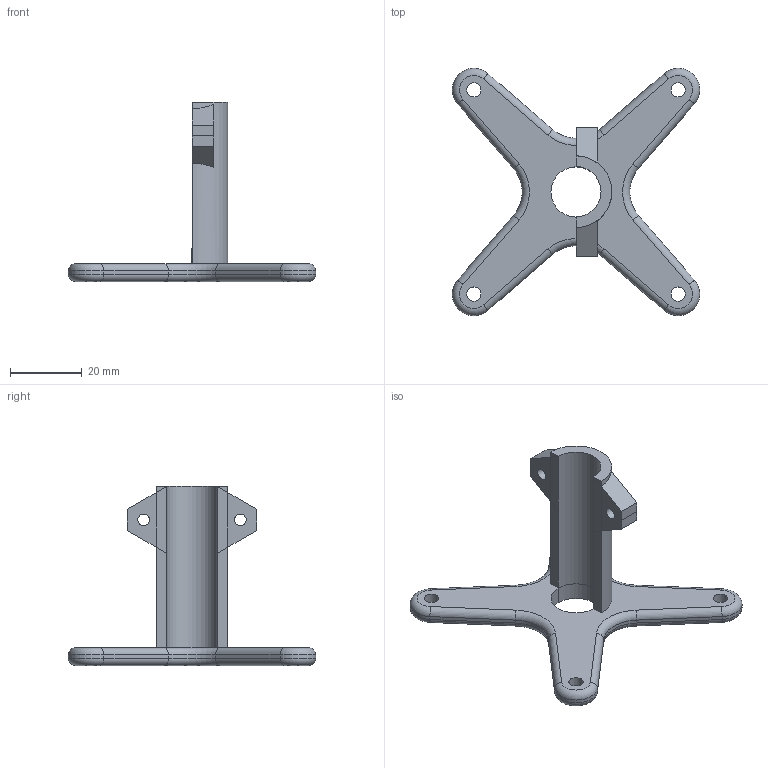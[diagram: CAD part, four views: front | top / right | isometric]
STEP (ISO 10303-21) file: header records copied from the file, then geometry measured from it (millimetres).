
FILE_DESCRIPTION(('FreeCAD Model'),'2;1');
FILE_NAME('Open CASCADE Shape Model','2022-05-26T11:40:16',('Author'),( ''),'Open CASCADE STEP processor 7.5','FreeCAD','Unknown');
FILE_SCHEMA(('AUTOMOTIVE_DESIGN { 1 0 10303 214 1 1 1 1 }'));
Length unit declared in the file: millimetre
Products named in the file (1): Pen
Bounding box: 69.01 x 69.01 x 50 mm (x, y, z)
Volume: 14966.5 mm3; surface area: 9228.1 mm2
Topology: 1 solids, 1 shells, 85 faces, 197 edges, 116 vertices
Faces by surface type: cylinder 37, plane 32, torus 16
Full cylindrical faces by diameter (mm): 3.2 x2, 4 x4, 5.8 x2
Entity records: 4979 total; most frequent: CARTESIAN_POINT 943, DIRECTION 772, ORIENTED_EDGE 394, PCURVE 394, DEFINITIONAL_REPRESENTATION 394, LINE 376, VECTOR 376, EDGE_CURVE 197
